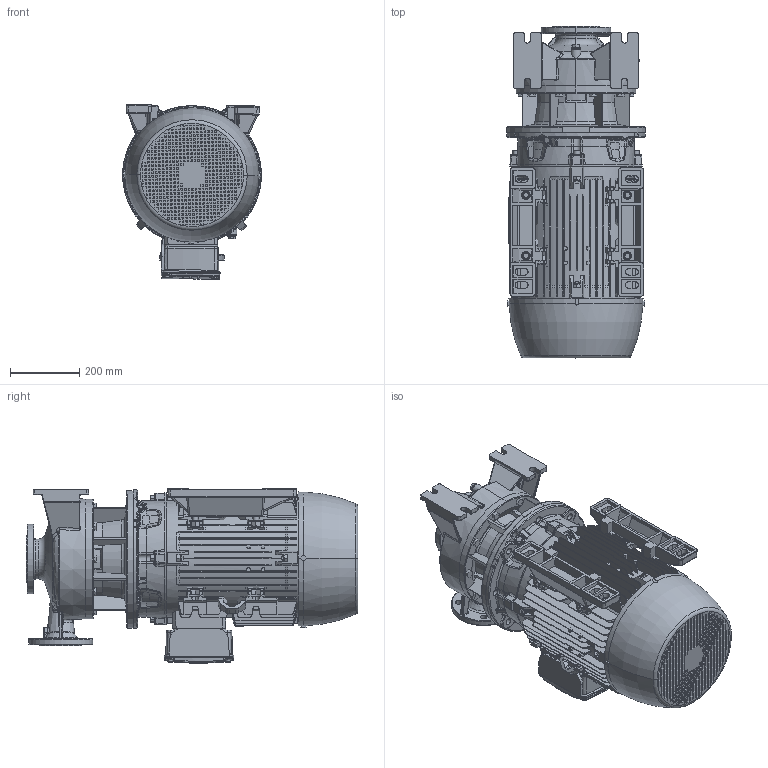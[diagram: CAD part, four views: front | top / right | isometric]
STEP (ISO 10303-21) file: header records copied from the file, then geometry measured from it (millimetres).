
FILE_DESCRIPTION (( 'STEP AP214' ), '1' );
FILE_NAME ('3LS 65-250_30.0 & 37_(200ML)_W21.STEP', '2026-04-29T05:46:35', ( '' ), ( '' ), 'SwSTEP 2.0', 'SolidWorks 2024', '' );
FILE_SCHEMA (( 'AUTOMOTIVE_DESIGN' ));
Length unit declared in the file: inch
Products named in the file (3): 3LS 65-250_30.0 & 37_(200ML)_W21; 65-250_30; 200M_L ALIE3_W21T_B35
Assembly tree (2 placements, depth 2):
  3LS 65-250_30.0 & 37_(200ML)_W21
    65-250_30
    200M_L ALIE3_W21T_B35
Bounding box: 399.96 x 955.8 x 503 mm (x, y, z)
Volume: 85894235.2 mm3; surface area: 4239055.5 mm2
Topology: 22 solids, 40 shells, 6634 faces, 16966 edges, 10810 vertices
Faces by surface type: plane 4025, bspline 1083, cylinder 830, cone 493, torus 181, sphere 22
Entity records: 266866 total; most frequent: CARTESIAN_POINT 117337, ORIENTED_EDGE 33718, DIRECTION 26471, EDGE_CURVE 16859, VERTEX_POINT 10810, LINE 10311, VECTOR 10311, AXIS2_PLACEMENT_3D 8080
